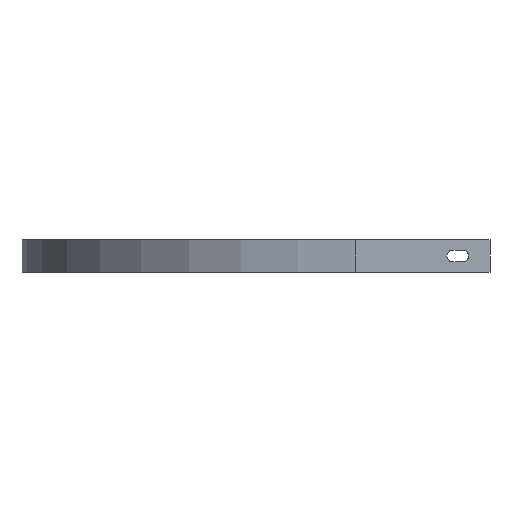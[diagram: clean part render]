
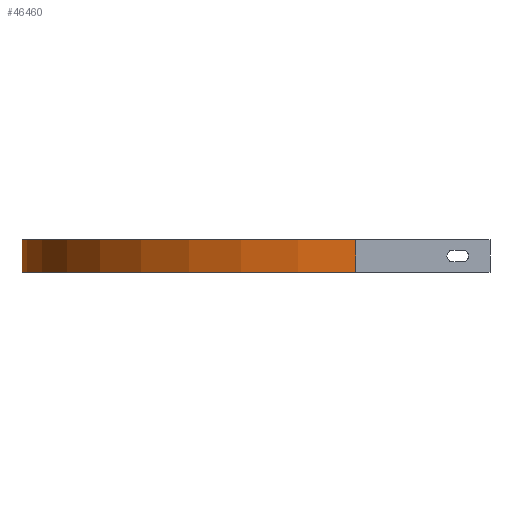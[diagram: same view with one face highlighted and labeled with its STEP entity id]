
A CAD part, left-side view. The second image highlights one B-rep face of the part: STEP entity #46460.
In plain terms, the highlighted cylindrical face has radius 310 mm (diameter 620 mm), a partial arc.
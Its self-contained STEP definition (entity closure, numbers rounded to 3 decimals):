
#44410=CARTESIAN_POINT('',(-310.,0.,-30.));
#44420=VERTEX_POINT('',#44410);
#44810=CARTESIAN_POINT('',(0.,310.,-30.));
#44820=VERTEX_POINT('',#44810);
#44850=CARTESIAN_POINT('',(0.,0.,-30.));
#44860=DIRECTION('',(0.,0.,1.));
#44870=DIRECTION('',(1.,0.,0.));
#44880=AXIS2_PLACEMENT_3D('',#44850,#44860,#44870);
#44890=CIRCLE('',#44880,310.);
#44900=EDGE_CURVE('',#44820,#44420,#44890,.T.);
#45000=CARTESIAN_POINT('',(0.,0.,0.));
#45010=DIRECTION('',(0.,0.,1.));
#45020=DIRECTION('',(1.,0.,0.));
#45030=AXIS2_PLACEMENT_3D('',#45000,#45010,#45020);
#45040=CIRCLE('',#45030,310.);
#45050=CARTESIAN_POINT('',(0.,310.,0.));
#45060=VERTEX_POINT('',#45050);
#45070=CARTESIAN_POINT('',(-310.,0.,0.));
#45080=VERTEX_POINT('',#45070);
#45090=EDGE_CURVE('',#45060,#45080,#45040,.T.);
#45830=CARTESIAN_POINT('',(0.,310.,0.));
#45840=DIRECTION('',(0.,0.,-1.));
#45850=VECTOR('',#45840,1.);
#45860=LINE('',#45830,#45850);
#45870=EDGE_CURVE('',#45060,#44820,#45860,.T.);
#46300=CARTESIAN_POINT('',(0.,0.,0.));
#46310=DIRECTION('',(0.,0.,1.));
#46320=DIRECTION('',(1.,0.,0.));
#46330=AXIS2_PLACEMENT_3D('',#46300,#46310,#46320);
#46340=CYLINDRICAL_SURFACE('',#46330,310.);
#46350=ORIENTED_EDGE('',*,*,#45090,.F.);
#46360=CARTESIAN_POINT('',(-310.,0.,0.));
#46370=DIRECTION('',(0.,0.,-1.));
#46380=VECTOR('',#46370,1.);
#46390=LINE('',#46360,#46380);
#46400=EDGE_CURVE('',#45080,#44420,#46390,.T.);
#46410=ORIENTED_EDGE('',*,*,#46400,.F.);
#46420=ORIENTED_EDGE('',*,*,#44900,.T.);
#46430=ORIENTED_EDGE('',*,*,#45870,.T.);
#46440=EDGE_LOOP('',(#46430,#46420,#46410,#46350));
#46450=FACE_OUTER_BOUND('',#46440,.T.);
#46460=ADVANCED_FACE('',(#46450),#46340,.T.);
